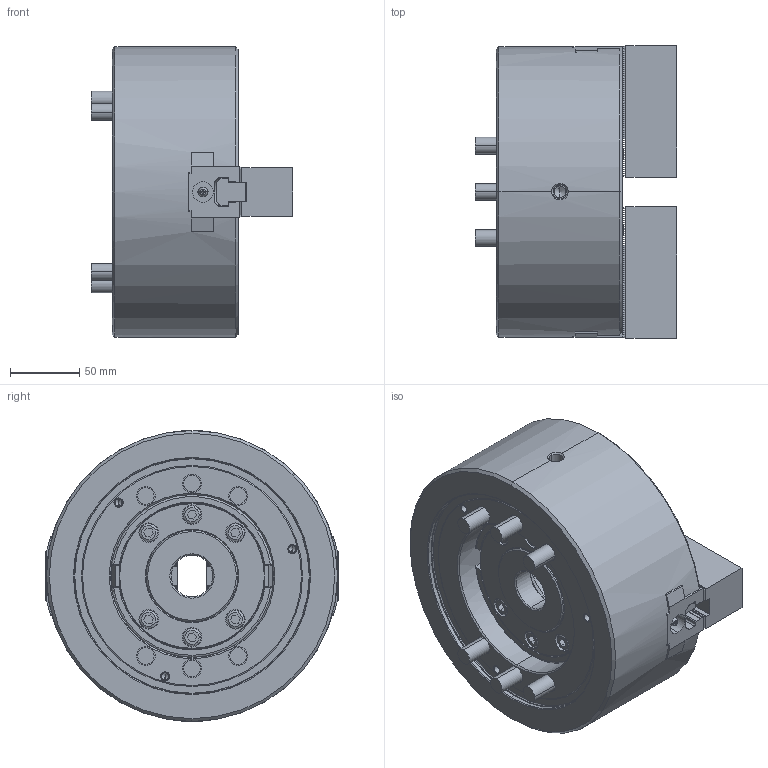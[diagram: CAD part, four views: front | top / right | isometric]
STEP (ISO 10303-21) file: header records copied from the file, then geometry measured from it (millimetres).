
FILE_DESCRIPTION (( 'STEP AP214' ), '1' );
FILE_NAME ('BT208_61P216126-7_UC.STEP', '2020-12-11T06:32:19', ( '' ), ( '' ), 'SwSTEP 2.0', 'SolidWorks 2017', '' );
FILE_SCHEMA (( 'AUTOMOTIVE_DESIGN' ));
Length unit declared in the file: millimetre
Products named in the file (14): Bアナツキ M12×30; 61P314548-4_ソフトジョー; 61P417260-1_俿僫僢僩; BT208_61P216126-7_UC; BT208_BASE PARTS^61P216123-9_クミタテ
Assembly tree (9 placements, depth 2):
  Bアナツキ M12×30
  Bアナツキ M12×30
  61P314548-4_ソフトジョー
  61P417260-1_俿僫僢僩
  Bアナツキ M12×30
Bounding box: 145.2 x 211.39 x 210 mm (x, y, z)
Volume: 2918752.1 mm3; surface area: 299292.4 mm2
Topology: 9 solids, 13 shells, 2537 faces, 6993 edges, 4583 vertices
Faces by surface type: plane 2000, cylinder 239, cone 141, bspline 122, torus 27, sphere 8
Entity records: 68512 total; most frequent: CARTESIAN_POINT 16662, ORIENTED_EDGE 11180, DIRECTION 9849, EDGE_CURVE 5590, LINE 4505, VECTOR 4505, VERTEX_POINT 3661, AXIS2_PLACEMENT_3D 2672
